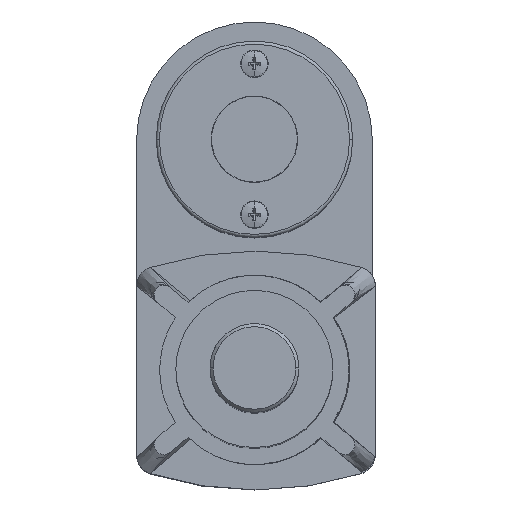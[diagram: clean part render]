
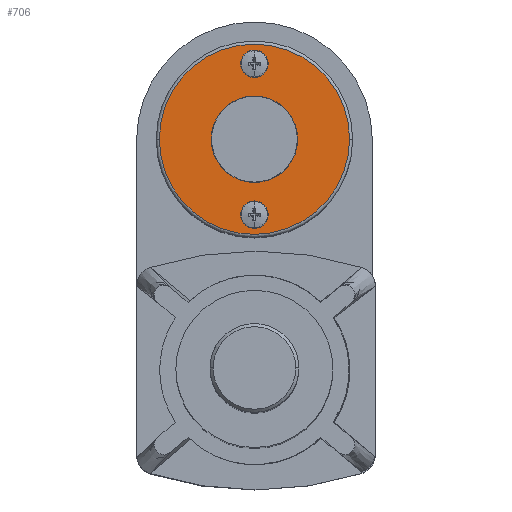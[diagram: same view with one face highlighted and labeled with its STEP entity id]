
A CAD part, top view. The second image highlights one B-rep face of the part: STEP entity #706.
In plain terms, the highlighted planar face has unit normal (0, 0, 1).
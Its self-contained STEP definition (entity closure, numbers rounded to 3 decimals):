
#197 = ORIENTED_EDGE ( 'NONE', *, *, #3902, .F. ) ;
#251 = CARTESIAN_POINT ( 'NONE',  ( 38.608, -56.038, 406.098 ) ) ;
#315 = CIRCLE ( 'NONE', #8977, 2.54 ) ;
#326 = DIRECTION ( 'NONE',  ( 0., 0., 1. ) ) ;
#374 = CARTESIAN_POINT ( 'NONE',  ( 38.608, -7.238, 406.098 ) ) ;
#411 = CARTESIAN_POINT ( 'NONE',  ( 41.148, -56.038, 406.098 ) ) ;
#463 = CARTESIAN_POINT ( 'NONE',  ( 38.608, -56.038, 406.098 ) ) ;
#628 = ORIENTED_EDGE ( 'NONE', *, *, #3323, .F. ) ;
#675 = DIRECTION ( 'NONE',  ( 0., 0., 1. ) ) ;
#706 = ADVANCED_FACE ( 'NONE', ( #3870, #9046, #10121 ), #6270, .T. ) ;
#992 = VERTEX_POINT ( 'NONE', #10937 ) ;
#1929 = DIRECTION ( 'NONE',  ( -1., 0., 0. ) ) ;
#2205 = VERTEX_POINT ( 'NONE', #9869 ) ;
#2389 = ORIENTED_EDGE ( 'NONE', *, *, #2908, .T. ) ;
#2695 = EDGE_CURVE ( 'NONE', #10036, #992, #10496, .T. ) ;
#2873 = DIRECTION ( 'NONE',  ( 0., 0., 1. ) ) ;
#2908 = EDGE_CURVE ( 'NONE', #2205, #8102, #7699, .T. ) ;
#2909 = DIRECTION ( 'NONE',  ( -1., 0., 0. ) ) ;
#3317 = CIRCLE ( 'NONE', #9119, 2.54 ) ;
#3323 = EDGE_CURVE ( 'NONE', #9413, #5234, #3317, .T. ) ;
#3870 = FACE_BOUND ( 'NONE', #5175, .T. ) ;
#3902 = EDGE_CURVE ( 'NONE', #992, #10036, #7942, .T. ) ;
#4959 = EDGE_LOOP ( 'NONE', ( #2389, #6200 ) ) ;
#5175 = EDGE_LOOP ( 'NONE', ( #197, #7436 ) ) ;
#5234 = VERTEX_POINT ( 'NONE', #8176 ) ;
#6149 = CIRCLE ( 'NONE', #10430, 30.75 ) ;
#6200 = ORIENTED_EDGE ( 'NONE', *, *, #9911, .T. ) ;
#6270 = PLANE ( 'NONE',  #6881 ) ;
#6666 = CARTESIAN_POINT ( 'NONE',  ( 69.358, -31.638, 406.098 ) ) ;
#6817 = CARTESIAN_POINT ( 'NONE',  ( 38.608, -7.238, 406.098 ) ) ;
#6881 = AXIS2_PLACEMENT_3D ( 'NONE', #7109, #10542, #8012 ) ;
#7109 = CARTESIAN_POINT ( 'NONE',  ( 38.608, -31.638, 406.098 ) ) ;
#7371 = EDGE_CURVE ( 'NONE', #5234, #9413, #315, .T. ) ;
#7436 = ORIENTED_EDGE ( 'NONE', *, *, #2695, .F. ) ;
#7699 = CIRCLE ( 'NONE', #7829, 30.75 ) ;
#7746 = DIRECTION ( 'NONE',  ( -1., 0., 0. ) ) ;
#7829 = AXIS2_PLACEMENT_3D ( 'NONE', #9759, #326, #2909 ) ;
#7924 = CARTESIAN_POINT ( 'NONE',  ( 38.608, -31.638, 406.098 ) ) ;
#7942 = CIRCLE ( 'NONE', #9411, 2.54 ) ;
#7989 = EDGE_LOOP ( 'NONE', ( #628, #8358 ) ) ;
#8012 = DIRECTION ( 'NONE',  ( -1., 0., 0. ) ) ;
#8102 = VERTEX_POINT ( 'NONE', #6666 ) ;
#8146 = DIRECTION ( 'NONE',  ( 0., 0., 1. ) ) ;
#8176 = CARTESIAN_POINT ( 'NONE',  ( 41.148, -7.238, 406.098 ) ) ;
#8343 = CARTESIAN_POINT ( 'NONE',  ( 36.068, -7.238, 406.098 ) ) ;
#8358 = ORIENTED_EDGE ( 'NONE', *, *, #7371, .F. ) ;
#8791 = DIRECTION ( 'NONE',  ( -1., 0., 0. ) ) ;
#8977 = AXIS2_PLACEMENT_3D ( 'NONE', #374, #675, #10612 ) ;
#9046 = FACE_BOUND ( 'NONE', #7989, .T. ) ;
#9119 = AXIS2_PLACEMENT_3D ( 'NONE', #6817, #10199, #7746 ) ;
#9189 = AXIS2_PLACEMENT_3D ( 'NONE', #463, #8146, #10640 ) ;
#9411 = AXIS2_PLACEMENT_3D ( 'NONE', #251, #10444, #1929 ) ;
#9413 = VERTEX_POINT ( 'NONE', #8343 ) ;
#9759 = CARTESIAN_POINT ( 'NONE',  ( 38.608, -31.638, 406.098 ) ) ;
#9869 = CARTESIAN_POINT ( 'NONE',  ( 7.858, -31.638, 406.098 ) ) ;
#9911 = EDGE_CURVE ( 'NONE', #8102, #2205, #6149, .T. ) ;
#10036 = VERTEX_POINT ( 'NONE', #411 ) ;
#10121 = FACE_OUTER_BOUND ( 'NONE', #4959, .T. ) ;
#10199 = DIRECTION ( 'NONE',  ( 0., 0., 1. ) ) ;
#10430 = AXIS2_PLACEMENT_3D ( 'NONE', #7924, #2873, #8791 ) ;
#10444 = DIRECTION ( 'NONE',  ( 0., 0., 1. ) ) ;
#10496 = CIRCLE ( 'NONE', #9189, 2.54 ) ;
#10542 = DIRECTION ( 'NONE',  ( 0., 0., 1. ) ) ;
#10612 = DIRECTION ( 'NONE',  ( -1., 0., 0. ) ) ;
#10640 = DIRECTION ( 'NONE',  ( -1., 0., 0. ) ) ;
#10937 = CARTESIAN_POINT ( 'NONE',  ( 36.068, -56.038, 406.098 ) ) ;
